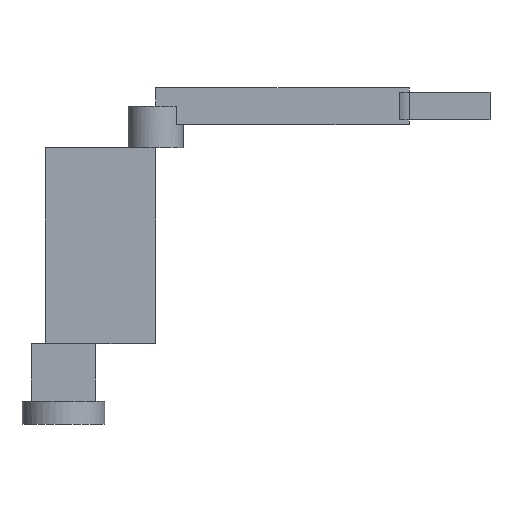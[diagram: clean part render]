
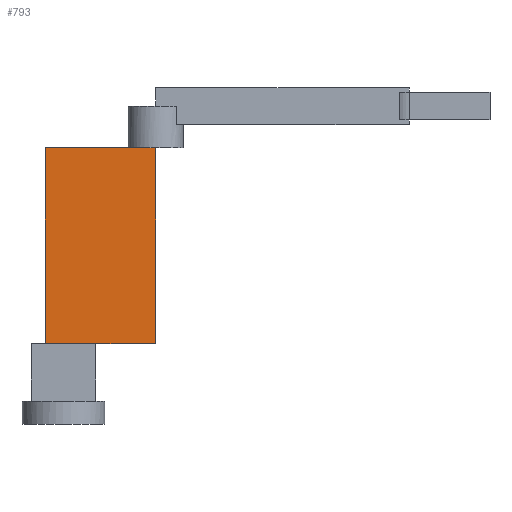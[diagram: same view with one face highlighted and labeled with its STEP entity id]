
A CAD part, front view. The second image highlights one B-rep face of the part: STEP entity #793.
In plain terms, the highlighted planar face has unit normal (0, -1, 0).
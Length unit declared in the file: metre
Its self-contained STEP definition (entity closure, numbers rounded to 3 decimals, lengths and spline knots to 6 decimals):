
#46=FACE_OUTER_BOUND('',#90,.T.);
#90=EDGE_LOOP('',(#646,#647,#648,#649,#650,#651));
#184=LINE('',#1255,#276);
#187=LINE('',#1263,#279);
#195=LINE('',#1277,#287);
#196=LINE('',#1280,#288);
#197=LINE('',#1281,#289);
#198=LINE('',#1282,#290);
#276=VECTOR('',#1018,0.01);
#279=VECTOR('',#1025,0.01);
#287=VECTOR('',#1037,0.01);
#288=VECTOR('',#1040,0.01);
#289=VECTOR('',#1041,0.01);
#290=VECTOR('',#1042,0.01);
#357=VERTEX_POINT('',#1247);
#359=VERTEX_POINT('',#1254);
#360=VERTEX_POINT('',#1259);
#362=VERTEX_POINT('',#1262);
#366=VERTEX_POINT('',#1275);
#367=VERTEX_POINT('',#1279);
#452=EDGE_CURVE('',#357,#359,#184,.T.);
#455=EDGE_CURVE('',#360,#362,#187,.T.);
#463=EDGE_CURVE('',#366,#359,#195,.T.);
#464=EDGE_CURVE('',#367,#360,#196,.T.);
#465=EDGE_CURVE('',#367,#366,#197,.T.);
#466=EDGE_CURVE('',#362,#357,#198,.T.);
#646=ORIENTED_EDGE('',*,*,#464,.F.);
#647=ORIENTED_EDGE('',*,*,#465,.T.);
#648=ORIENTED_EDGE('',*,*,#463,.T.);
#649=ORIENTED_EDGE('',*,*,#452,.F.);
#650=ORIENTED_EDGE('',*,*,#466,.F.);
#651=ORIENTED_EDGE('',*,*,#455,.F.);
#750=PLANE('',#866);
#793=ADVANCED_FACE('',(#46),#750,.T.);
#866=AXIS2_PLACEMENT_3D('',#1278,#1038,#1039);
#1018=DIRECTION('',(1.,0.,0.));
#1025=DIRECTION('',(0.,0.,1.));
#1037=DIRECTION('',(0.,0.,1.));
#1038=DIRECTION('center_axis',(0.,-1.,0.));
#1039=DIRECTION('ref_axis',(1.,0.,0.));
#1040=DIRECTION('',(-1.,0.,0.));
#1041=DIRECTION('',(1.,0.,0.));
#1042=DIRECTION('',(1.,0.,0.));
#1247=CARTESIAN_POINT('',(0.333668,-0.1,1.2));
#1254=CARTESIAN_POINT('',(0.4,-0.1,1.2));
#1255=CARTESIAN_POINT('',(-0.08,-0.1,1.2));
#1259=CARTESIAN_POINT('',(-0.08,-0.1,0.35));
#1262=CARTESIAN_POINT('',(-0.08,-0.1,1.2));
#1263=CARTESIAN_POINT('',(-0.08,-0.1,0.35));
#1275=CARTESIAN_POINT('',(0.4,-0.1,0.35));
#1277=CARTESIAN_POINT('',(0.4,-0.1,0.35));
#1278=CARTESIAN_POINT('Origin',(-0.08,-0.1,0.35));
#1279=CARTESIAN_POINT('',(0.14,-0.1,0.35));
#1280=CARTESIAN_POINT('',(-0.04,-0.1,0.35));
#1281=CARTESIAN_POINT('',(-0.08,-0.1,0.35));
#1282=CARTESIAN_POINT('',(-0.08,-0.1,1.2));
